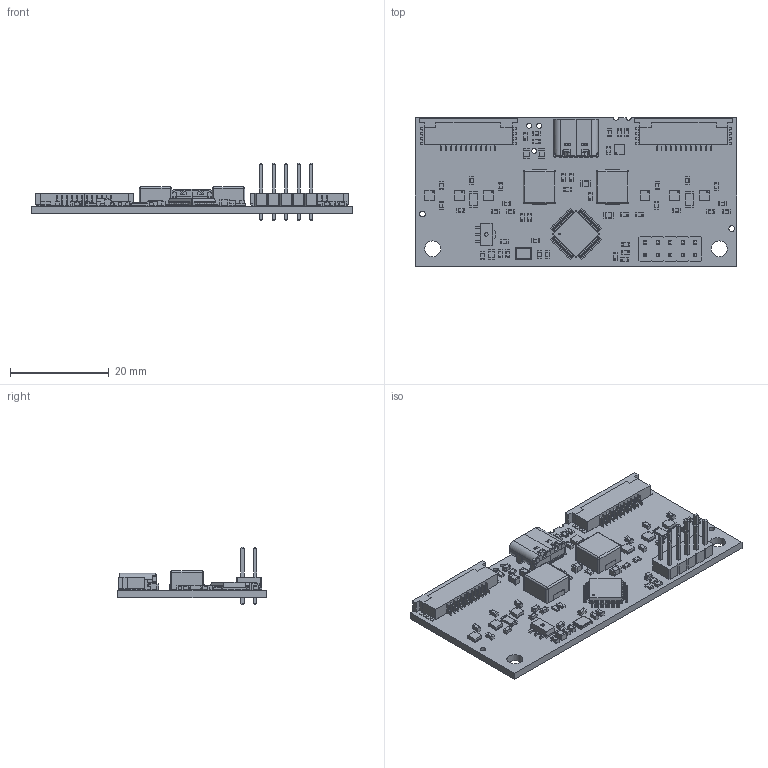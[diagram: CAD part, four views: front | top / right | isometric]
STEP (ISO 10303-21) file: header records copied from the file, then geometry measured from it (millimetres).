
FILE_DESCRIPTION(('KiCad electronic assembly'),'2;1');
FILE_NAME('brain.step','2026-10-19T00:50:32',('Pcbnew'),('Kicad'), 'Open CASCADE STEP processor 7.6','KiCad to STEP converter','Unknown' );
FILE_SCHEMA(('AUTOMOTIVE_DESIGN { 1 0 10303 214 1 1 1 1 }'));
Length unit declared in the file: millimetre
Products named in the file (35): brain 1; SOT-89-3; CQ assembly; adbeea56-9c39-11ed-93f0-dde97e994e83; adbeea57-9c39-11ed-93f0-dde97e994e83; adbeea57-9c39-11ed-93f0-dde97e994e83_part; adbeea58-9c39-11ed-93f0-dde97e994e83; adbeea58-9c39-11ed-93f0-dde97e994e83_part; adbeea59-9c39-11ed-93f0-dde97e994e83; adbeea59-9c39-11ed-93f0-dde97e994e83_part; C_0603_1608Metric; TE_1-84952-2_1x12-1MP_P1.0mm_Horizontal; TE_1_84952_2; C_0805_2012Metric; R_0603_1608Metric; R_1206_3216Metric; LED_0603_1608Metric; L_APV_APH0640; WSON-8-1EP_2x2mm_P0.5mm_EP0.9x1.6mm; WSON_8_1EP_2x2mm_P05mm_EP09x16mm; USB_C_Receptacle_GCT_USB4105-xx-A_16P_TopMnt_Horizontal; USB_C_Receptacle_16P_TopMnt_Horizontal_GCT_USB4105-xx-A; Crystal_SMD_3225-4Pin_3.2x2.5mm; PinHeader_2x05_P2.54mm_Vertical; PinHeader_2x05_P254mm_Vertical; LQFP-48_7x7mm_P0.5mm; brain-unsaved-export-uvhSjR_PCB
Assembly tree (86 placements, depth 6):
  brain 1
    SOT-89-3
      CQ assembly
        adbeea56-9c39-11ed-93f0-dde97e994e83
          adbeea57-9c39-11ed-93f0-dde97e994e83
            adbeea57-9c39-11ed-93f0-dde97e994e83_part
          adbeea58-9c39-11ed-93f0-dde97e994e83
            adbeea58-9c39-11ed-93f0-dde97e994e83_part
          adbeea59-9c39-11ed-93f0-dde97e994e83
            adbeea59-9c39-11ed-93f0-dde97e994e83_part
    C_0603_1608Metric  x26
      C_0603_1608Metric
    TE_1-84952-2_1x12-1MP_P1.0mm_Horizontal  x2
      TE_1_84952_2
    C_0805_2012Metric  x5
      C_0805_2012Metric
    R_0603_1608Metric  x15
      R_0603_1608Metric
    R_1206_3216Metric  x2
      R_1206_3216Metric
    LED_0603_1608Metric
      LED_0603_1608Metric
    L_APV_APH0640  x2
      L_APV_APH0640
    WSON-8-1EP_2x2mm_P0.5mm_EP0.9x1.6mm  x7
      WSON_8_1EP_2x2mm_P05mm_EP09x16mm
    USB_C_Receptacle_GCT_USB4105-xx-A_16P_TopMnt_Horizontal
      USB_C_Receptacle_16P_TopMnt_Horizontal_GCT_USB4105-xx-A
    Crystal_SMD_3225-4Pin_3.2x2.5mm
      Crystal_SMD_3225-4Pin_3.2x2.5mm
    PinHeader_2x05_P2.54mm_Vertical
      PinHeader_2x05_P254mm_Vertical
    LQFP-48_7x7mm_P0.5mm
      LQFP-48_7x7mm_P0.5mm
    brain-unsaved-export-uvhSjR_PCB
Bounding box: 65 x 30 x 11.54 mm (x, y, z)
Volume: 4173.7 mm3; surface area: 7213.6 mm2
Topology: 105 solids, 105 shells, 4056 faces, 10550 edges, 6799 vertices
Faces by surface type: plane 3053, cylinder 915, extrusion 56, bspline 16, sphere 8, cone 8
Full cylindrical faces by diameter (mm): 0.25 x7, 0.5 x2, 0.65 x2, 0.7 x1, 0.991 x1, 1 x12, 1.152 x2, 3.2 x2
Entity records: 83925 total; most frequent: CARTESIAN_POINT 11863, ORIENTED_EDGE 11402, DIRECTION 11041, EDGE_CURVE 5701, VECTOR 4783, LINE 4755, VERTEX_POINT 3621, AXIS2_PLACEMENT_3D 3129
